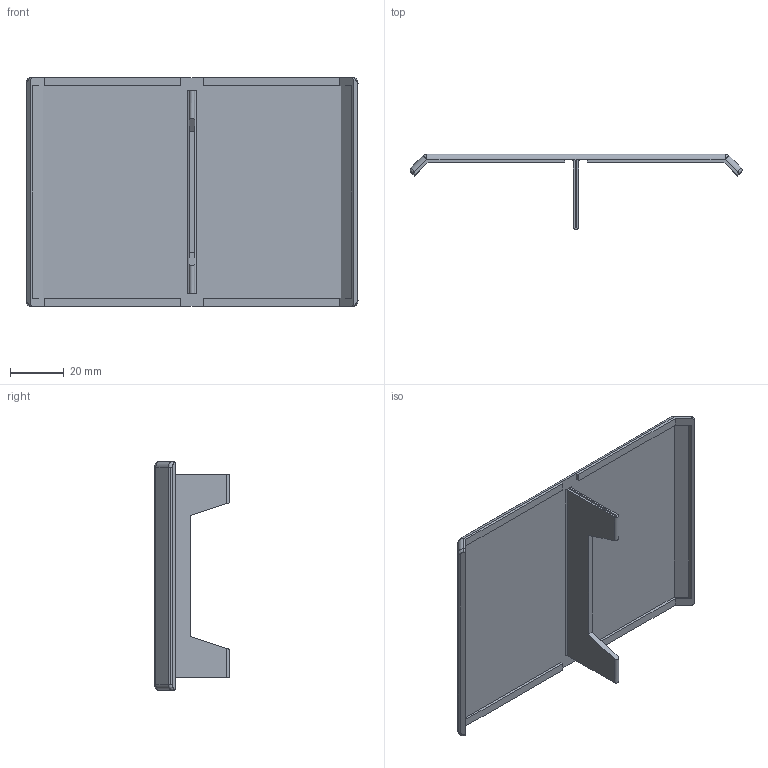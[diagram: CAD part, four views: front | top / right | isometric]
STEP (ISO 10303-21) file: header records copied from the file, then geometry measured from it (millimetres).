
FILE_DESCRIPTION (( 'STEP AP214' ), '1' );
FILE_NAME ('1.1042 Päätysuoja kulmalle 90.STEP', '2025-09-03T09:06:40', ( '' ), ( '' ), 'SwSTEP 2.0', 'SolidWorks 2025', '' );
FILE_SCHEMA (( 'AUTOMOTIVE_DESIGN' ));
Length unit declared in the file: millimetre
Products named in the file (1): 1.1042 Päätysuoja kulmalle 90
Bounding box: 123.41 x 28 x 85 mm (x, y, z)
Volume: 24770.9 mm3; surface area: 25650.8 mm2
Topology: 1 solids, 1 shells, 194 faces, 509 edges, 330 vertices
Faces by surface type: plane 132, bspline 41, cylinder 19, cone 2
Entity records: 7474 total; most frequent: CARTESIAN_POINT 2917, ORIENTED_EDGE 1018, DIRECTION 785, EDGE_CURVE 509, LINE 397, VECTOR 397, VERTEX_POINT 330, EDGE_LOOP 207
